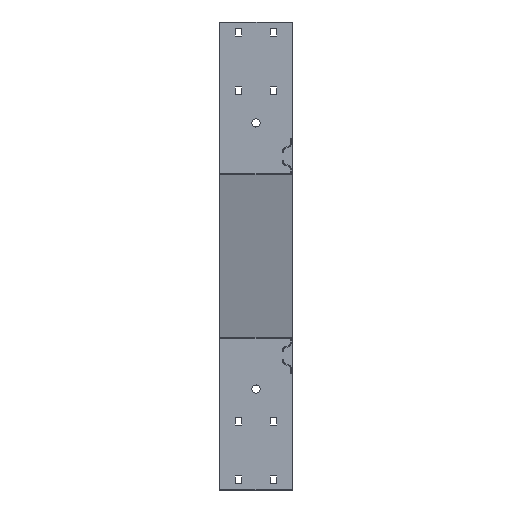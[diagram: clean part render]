
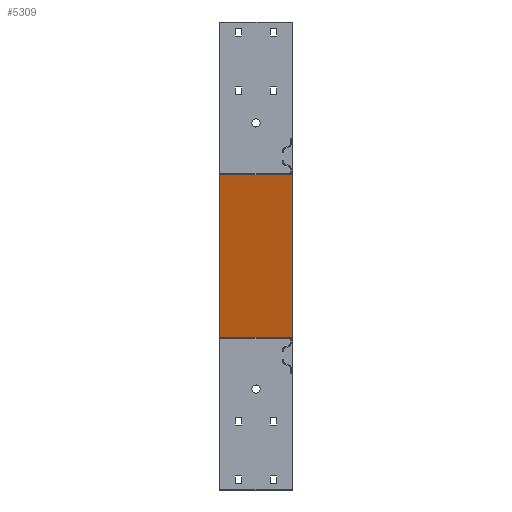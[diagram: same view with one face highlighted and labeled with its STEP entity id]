
A CAD part, left-side view. The second image highlights one B-rep face of the part: STEP entity #5309.
In plain terms, the highlighted planar face has unit normal (-0.966, 0, -0.259) as drawn and (0.966, 0, -0.259) by its records, which use the part's own axes.
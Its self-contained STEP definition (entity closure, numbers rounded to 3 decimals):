
#326 = CARTESIAN_POINT ( 'NONE',  ( 301.932, 0., -0.517 ) ) ;
#374 = EDGE_CURVE ( 'NONE', #7108, #6484, #9921, .T. ) ;
#518 = DIRECTION ( 'NONE',  ( -0.966, 0., 0.259 ) ) ;
#752 = VECTOR ( 'NONE', #1818, 1000. ) ;
#1144 = LINE ( 'NONE', #326, #752 ) ;
#1243 = ORIENTED_EDGE ( 'NONE', *, *, #5074, .T. ) ;
#1271 = ORIENTED_EDGE ( 'NONE', *, *, #8326, .T. ) ;
#1376 = EDGE_LOOP ( 'NONE', ( #1271, #1243, #4312, #2660 ) ) ;
#1389 = EDGE_CURVE ( 'NONE', #9525, #7108, #3668, .T. ) ;
#1818 = DIRECTION ( 'NONE',  ( -0.259, 0., -0.966 ) ) ;
#2008 = PLANE ( 'NONE',  #8257 ) ;
#2588 = CARTESIAN_POINT ( 'NONE',  ( 301.881, 124., -0.708 ) ) ;
#2660 = ORIENTED_EDGE ( 'NONE', *, *, #1389, .F. ) ;
#3668 = LINE ( 'NONE', #9800, #8342 ) ;
#3896 = VECTOR ( 'NONE', #4136, 1000. ) ;
#4136 = DIRECTION ( 'NONE',  ( 0., 1., 0. ) ) ;
#4312 = ORIENTED_EDGE ( 'NONE', *, *, #374, .F. ) ;
#4444 = DIRECTION ( 'NONE',  ( -0.259, 0., -0.966 ) ) ;
#4887 = LINE ( 'NONE', #9605, #3896 ) ;
#5074 = EDGE_CURVE ( 'NONE', #5153, #6484, #4887, .T. ) ;
#5112 = FACE_OUTER_BOUND ( 'NONE', #1376, .T. ) ;
#5153 = VERTEX_POINT ( 'NONE', #7214 ) ;
#5309 = ADVANCED_FACE ( 'NONE', ( #5112 ), #2008, .F. ) ;
#6484 = VERTEX_POINT ( 'NONE', #9943 ) ;
#7108 = VERTEX_POINT ( 'NONE', #2588 ) ;
#7214 = CARTESIAN_POINT ( 'NONE',  ( 227.051, 0., -280.073 ) ) ;
#8129 = CARTESIAN_POINT ( 'NONE',  ( 301.932, 124., -0.517 ) ) ;
#8215 = DIRECTION ( 'NONE',  ( 0.259, 0., 0.966 ) ) ;
#8257 = AXIS2_PLACEMENT_3D ( 'NONE', #8129, #518, #8215 ) ;
#8326 = EDGE_CURVE ( 'NONE', #9525, #5153, #1144, .T. ) ;
#8342 = VECTOR ( 'NONE', #9754, 1000. ) ;
#8410 = CARTESIAN_POINT ( 'NONE',  ( 301.881, 0., -0.708 ) ) ;
#8939 = VECTOR ( 'NONE', #4444, 1000. ) ;
#9525 = VERTEX_POINT ( 'NONE', #8410 ) ;
#9605 = CARTESIAN_POINT ( 'NONE',  ( 227.051, 0., -280.073 ) ) ;
#9754 = DIRECTION ( 'NONE',  ( 0., 1., 0. ) ) ;
#9800 = CARTESIAN_POINT ( 'NONE',  ( 301.881, 0., -0.708 ) ) ;
#9807 = CARTESIAN_POINT ( 'NONE',  ( 301.932, 124., -0.517 ) ) ;
#9921 = LINE ( 'NONE', #9807, #8939 ) ;
#9943 = CARTESIAN_POINT ( 'NONE',  ( 227.051, 124., -280.073 ) ) ;
